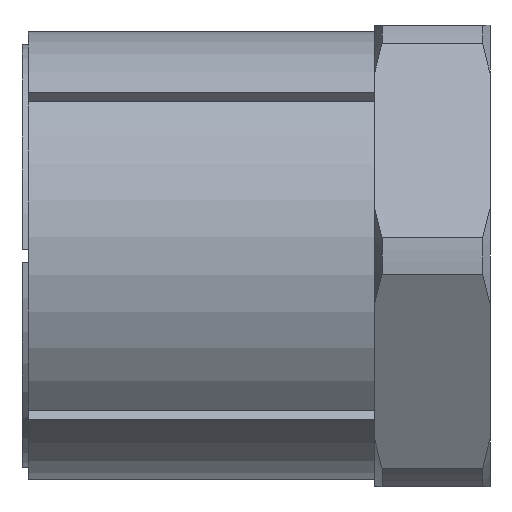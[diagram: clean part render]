
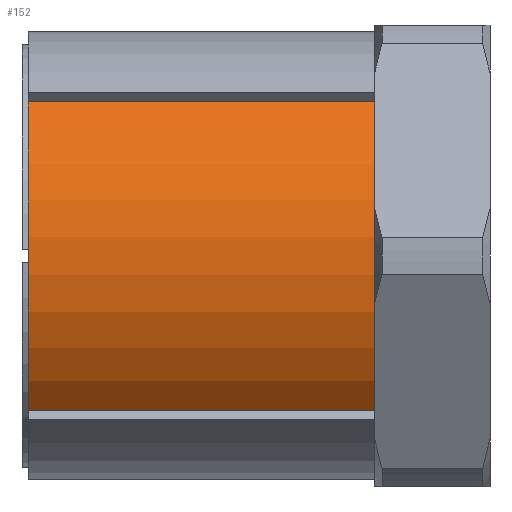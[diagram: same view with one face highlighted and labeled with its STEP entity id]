
A CAD part, front view. The second image highlights one B-rep face of the part: STEP entity #152.
In plain terms, the highlighted cylindrical face has radius 17.5 mm (diameter 35 mm), a partial arc.
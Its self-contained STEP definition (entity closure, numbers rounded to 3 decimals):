
#20 = AXIS2_PLACEMENT_3D ( 'NONE', #2145, #2131, #2130 ) ;
#41 = AXIS2_PLACEMENT_3D ( 'NONE', #2303, #2292, #2291 ) ;
#152 = ADVANCED_FACE ( 'NONE', ( #551 ), #641, .T. ) ;
#282 = CARTESIAN_POINT ( 'NONE',  ( 0., 0., 0. ) ) ;
#290 = DIRECTION ( 'NONE',  ( -1., 0., 0. ) ) ;
#318 = DIRECTION ( 'NONE',  ( 0., 0., 1. ) ) ;
#454 = VERTEX_POINT ( 'NONE', #952 ) ;
#458 = VERTEX_POINT ( 'NONE', #961 ) ;
#465 = VERTEX_POINT ( 'NONE', #1003 ) ;
#468 = VERTEX_POINT ( 'NONE', #996 ) ;
#551 = FACE_OUTER_BOUND ( 'NONE', #1292, .T. ) ;
#641 = CYLINDRICAL_SURFACE ( 'NONE', #1795, 17.5 ) ;
#662 = VECTOR ( 'NONE', #776, 1000. ) ;
#664 = LINE ( 'NONE', #780, #662 ) ;
#776 = DIRECTION ( 'NONE',  ( -1., 0., 0. ) ) ;
#780 = CARTESIAN_POINT ( 'NONE',  ( 0., -12.723, 12.016 ) ) ;
#952 = CARTESIAN_POINT ( 'NONE',  ( 0., -12.723, -12.016 ) ) ;
#961 = CARTESIAN_POINT ( 'NONE',  ( 27., -12.723, 12.016 ) ) ;
#996 = CARTESIAN_POINT ( 'NONE',  ( 0., -12.723, 12.016 ) ) ;
#1003 = CARTESIAN_POINT ( 'NONE',  ( 27., -12.723, -12.016 ) ) ;
#1292 = EDGE_LOOP ( 'NONE', ( #1571, #1577, #1580, #1579 ) ) ;
#1320 = CIRCLE ( 'NONE', #20, 17.5 ) ;
#1571 = ORIENTED_EDGE ( 'NONE', *, *, #2009, .T. ) ;
#1577 = ORIENTED_EDGE ( 'NONE', *, *, #1804, .T. ) ;
#1579 = ORIENTED_EDGE ( 'NONE', *, *, #1990, .T. ) ;
#1580 = ORIENTED_EDGE ( 'NONE', *, *, #2058, .F. ) ;
#1709 = CIRCLE ( 'NONE', #41, 17.5 ) ;
#1737 = LINE ( 'NONE', #2345, #1744 ) ;
#1744 = VECTOR ( 'NONE', #2344, 1000. ) ;
#1795 = AXIS2_PLACEMENT_3D ( 'NONE', #282, #290, #318 ) ;
#1804 = EDGE_CURVE ( 'NONE', #458, #468, #664, .T. ) ;
#1990 = EDGE_CURVE ( 'NONE', #454, #465, #1737, .T. ) ;
#2009 = EDGE_CURVE ( 'NONE', #465, #458, #1709, .T. ) ;
#2058 = EDGE_CURVE ( 'NONE', #454, #468, #1320, .T. ) ;
#2130 = DIRECTION ( 'NONE',  ( 0., 0., 1. ) ) ;
#2131 = DIRECTION ( 'NONE',  ( -1., 0., 0. ) ) ;
#2145 = CARTESIAN_POINT ( 'NONE',  ( 0., 0., 0. ) ) ;
#2291 = DIRECTION ( 'NONE',  ( 0., 0., 1. ) ) ;
#2292 = DIRECTION ( 'NONE',  ( -1., 0., 0. ) ) ;
#2303 = CARTESIAN_POINT ( 'NONE',  ( 27., 0., 0. ) ) ;
#2344 = DIRECTION ( 'NONE',  ( 1., 0., 0. ) ) ;
#2345 = CARTESIAN_POINT ( 'NONE',  ( 0., -12.723, -12.016 ) ) ;
